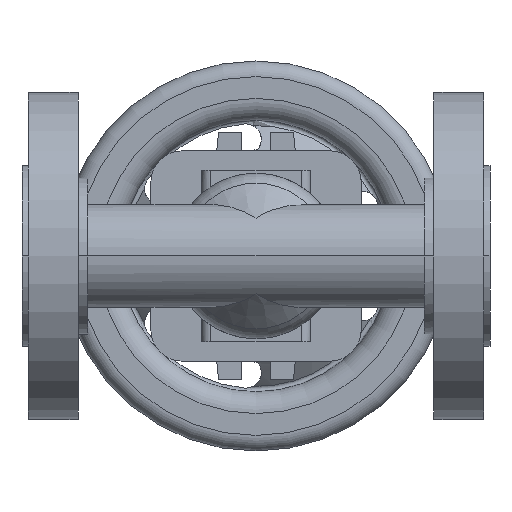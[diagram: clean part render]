
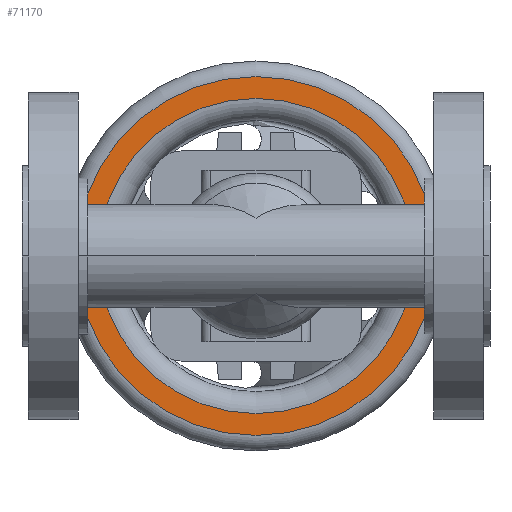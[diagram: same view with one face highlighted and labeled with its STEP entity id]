
A CAD part, front view. The second image highlights one B-rep face of the part: STEP entity #71170.
In plain terms, the highlighted planar face has unit normal (0, -1, 0).
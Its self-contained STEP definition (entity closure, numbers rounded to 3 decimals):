
#70560=CARTESIAN_POINT('',(17.5,214.3,0.));
#70570=VERTEX_POINT('',#70560);
#70660=CARTESIAN_POINT('',(132.5,214.3,0.));
#70670=VERTEX_POINT('',#70660);
#70700=CARTESIAN_POINT('',(75.,214.3,0.));
#70710=DIRECTION('',(0.,1.,0.));
#70720=DIRECTION('',(-1.,0.,0.));
#70730=AXIS2_PLACEMENT_3D('',#70700,#70710,#70720);
#70740=CIRCLE('',#70730,57.5);
#70750=CARTESIAN_POINT('',(75.,214.3,57.5));
#70760=VERTEX_POINT('',#70750);
#70770=EDGE_CURVE('',#70760,#70670,#70740,.T.);
#70790=EDGE_CURVE('',#70570,#70760,#70740,.T.);
#70910=CARTESIAN_POINT('',(21.,214.3,0.));
#70920=DIRECTION('',(0.,-1.,0.));
#70930=DIRECTION('',(1.,0.,0.));
#70940=AXIS2_PLACEMENT_3D('',#70910,#70920,#70930);
#70950=PLANE('',#70940);
#70960=ORIENTED_EDGE('',*,*,#70770,.F.);
#70970=EDGE_CURVE('',#70670,#70570,#70740,.T.);
#70980=ORIENTED_EDGE('',*,*,#70970,.F.);
#70990=ORIENTED_EDGE('',*,*,#70790,.F.);
#71000=EDGE_LOOP('',(#70990,#70980,#70960));
#71010=FACE_OUTER_BOUND('',#71000,.T.);
#71020=CARTESIAN_POINT('',(75.,214.3,0.));
#71030=DIRECTION('',(0.,1.,0.));
#71040=DIRECTION('',(-1.,0.,0.));
#71050=AXIS2_PLACEMENT_3D('',#71020,#71030,#71040);
#71060=CIRCLE('',#71050,50.5);
#71070=CARTESIAN_POINT('',(24.5,214.3,0.));
#71080=VERTEX_POINT('',#71070);
#71090=CARTESIAN_POINT('',(125.5,214.3,0.));
#71100=VERTEX_POINT('',#71090);
#71110=EDGE_CURVE('',#71080,#71100,#71060,.T.);
#71120=ORIENTED_EDGE('',*,*,#71110,.T.);
#71130=EDGE_CURVE('',#71100,#71080,#71060,.T.);
#71140=ORIENTED_EDGE('',*,*,#71130,.T.);
#71150=EDGE_LOOP('',(#71140,#71120));
#71160=FACE_BOUND('',#71150,.T.);
#71170=ADVANCED_FACE('',(#71010,#71160),#70950,.T.);
